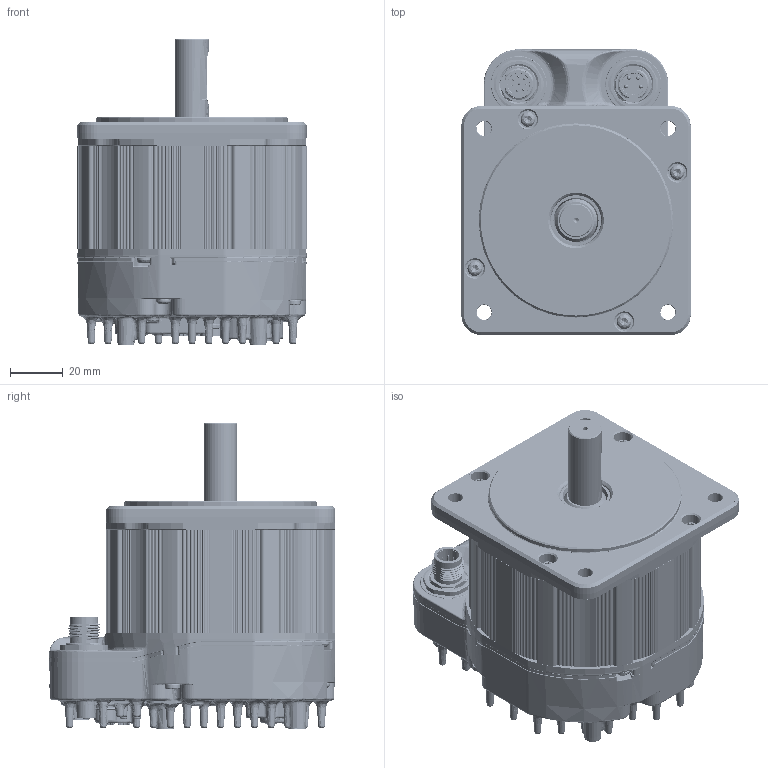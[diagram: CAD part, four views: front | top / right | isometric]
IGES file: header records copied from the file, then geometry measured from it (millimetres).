
Start section: SolidWorks IGES file using analytic representation for surfaces
Global section: file name: C:\TeknicPDM\EtherPath CPM-S\EtherPath CPM-S Customer Files\CPM-S Customer Models\CPMS 341x.igs; native system: SolidWorks 2020; preprocessor: SolidWorks 2020; author: mike_berezny; date: 241007.172429; units: inch
Bounding box: 86.87 x 108.59 x 116.16 mm (x, y, z)
Surface area: 165976.2 mm2 (no closed solid volume)
Topology: 0 solids, 0 shells, 10990 faces, 111914 edges, 111256 vertices
Faces by surface type: bspline 5508, revolution 5482
